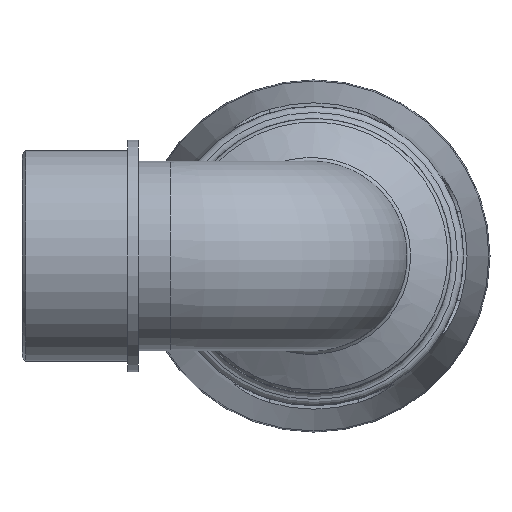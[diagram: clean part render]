
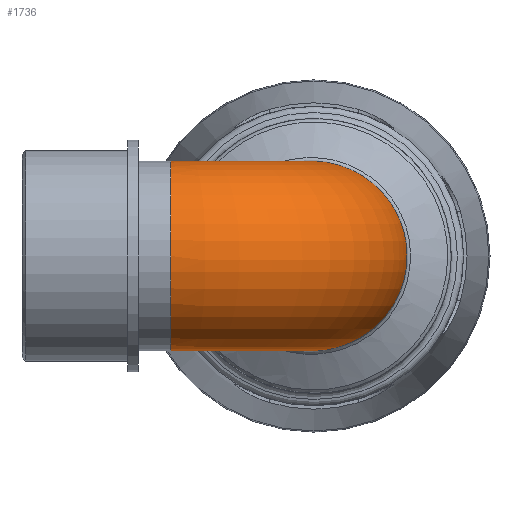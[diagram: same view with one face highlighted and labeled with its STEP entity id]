
A CAD part, left-side view. The second image highlights one B-rep face of the part: STEP entity #1736.
In plain terms, the highlighted toroidal (fillet/blend) face has major radius 28.465 mm and minor radius 18.86 mm.
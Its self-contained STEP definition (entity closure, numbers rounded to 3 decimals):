
#80=TOROIDAL_SURFACE('',#1855,28.465,18.86);
#90=FACE_BOUND('',#436,.T.);
#319=FACE_OUTER_BOUND('',#435,.T.);
#435=EDGE_LOOP('',(#1149));
#436=EDGE_LOOP('',(#1150));
#557=B_SPLINE_CURVE_WITH_KNOTS('',3,(#2632,#2633,#2634,#2635,#2636,#2637,
#2638,#2639,#2640,#2641,#2642,#2643,#2644,#2645,#2646,#2647,#2648,#2649,
#2650,#2651),.UNSPECIFIED.,.T.,.F.,(4,1,1,1,1,1,1,1,1,1,1,1,1,1,1,1,1,4),
(-3.142,-2.917,-2.693,-2.244,
-1.795,-1.346,-0.748,-0.449,
-0.299,-0.15,0.449,0.898,
1.346,1.795,2.244,2.693,2.917,
3.142),.UNSPECIFIED.);
#631=CIRCLE('',#1850,18.86);
#721=VERTEX_POINT('',#2630);
#728=VERTEX_POINT('',#2887);
#882=EDGE_CURVE('',#721,#721,#557,.T.);
#892=EDGE_CURVE('',#728,#728,#631,.T.);
#1149=ORIENTED_EDGE('',*,*,#882,.F.);
#1150=ORIENTED_EDGE('',*,*,#892,.T.);
#1736=ADVANCED_FACE('',(#319,#90),#80,.T.);
#1850=AXIS2_PLACEMENT_3D('',#2888,#2066,#2067);
#1855=AXIS2_PLACEMENT_3D('',#2896,#2076,#2077);
#2066=DIRECTION('center_axis',(0.,-1.,0.));
#2067=DIRECTION('ref_axis',(-1.,0.,0.));
#2076=DIRECTION('center_axis',(0.,0.,1.));
#2077=DIRECTION('ref_axis',(1.,0.,0.));
#2630=CARTESIAN_POINT('',(22.355,21.054,0.));
#2632=CARTESIAN_POINT('Ctrl Pts',(22.355,21.054,0.));
#2633=CARTESIAN_POINT('Ctrl Pts',(22.355,21.054,1.433));
#2634=CARTESIAN_POINT('Ctrl Pts',(22.354,20.62,4.3));
#2635=CARTESIAN_POINT('Ctrl Pts',(22.377,18.26,9.633));
#2636=CARTESIAN_POINT('Ctrl Pts',(22.479,13.301,15.149));
#2637=CARTESIAN_POINT('Ctrl Pts',(22.597,5.316,18.932));
#2638=CARTESIAN_POINT('Ctrl Pts',(22.682,-4.511,19.113));
#2639=CARTESIAN_POINT('Ctrl Pts',(22.722,-12.395,14.782));
#2640=CARTESIAN_POINT('Ctrl Pts',(22.738,-16.279,9.222));
#2641=CARTESIAN_POINT('Ctrl Pts',(22.744,-17.709,5.668));
#2642=CARTESIAN_POINT('Ctrl Pts',(22.749,-19.034,0.066));
#2643=CARTESIAN_POINT('Ctrl Pts',(22.744,-17.806,-7.843));
#2644=CARTESIAN_POINT('Ctrl Pts',(22.719,-11.554,-15.42));
#2645=CARTESIAN_POINT('Ctrl Pts',(22.673,-3.526,-19.086));
#2646=CARTESIAN_POINT('Ctrl Pts',(22.597,5.315,-18.936));
#2647=CARTESIAN_POINT('Ctrl Pts',(22.479,13.302,-15.147));
#2648=CARTESIAN_POINT('Ctrl Pts',(22.377,18.259,-9.634));
#2649=CARTESIAN_POINT('Ctrl Pts',(22.354,20.62,-4.3));
#2650=CARTESIAN_POINT('Ctrl Pts',(22.355,21.054,-1.433));
#2651=CARTESIAN_POINT('Ctrl Pts',(22.355,21.054,0.));
#2887=CARTESIAN_POINT('',(18.86,28.465,0.));
#2888=CARTESIAN_POINT('Origin',(0.,28.465,0.));
#2896=CARTESIAN_POINT('Origin',(28.465,28.465,0.));
